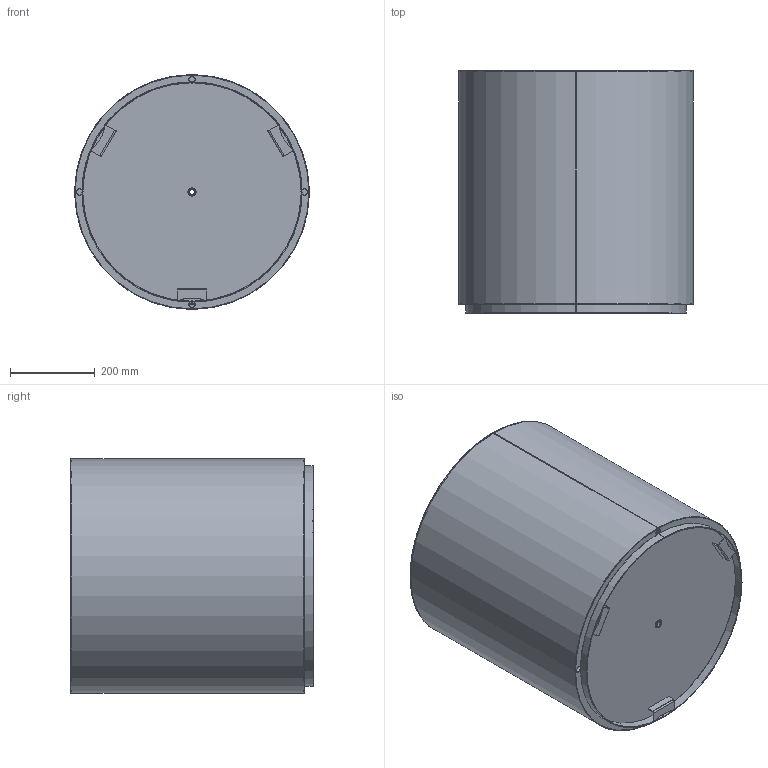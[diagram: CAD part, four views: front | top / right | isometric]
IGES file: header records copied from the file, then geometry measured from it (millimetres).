
Start section: SolidWorks IGES file using analytic representation for surfaces
Global section: file name: C:\VaultDeCastelli\Progetti\DC\PESO LEGGERO PRODOTTI\Ale\DeCastelli-3D-Cohiba large 57.igs; native system: SolidWorks 2022; preprocessor: SolidWorks 2022; author: AlessandroP; date: 240802.102643; units: millimetre
Bounding box: 552 x 570 x 552 mm (x, y, z)
Surface area: 2801618.8 mm2 (no closed solid volume)
Topology: 0 solids, 0 shells, 128 faces, 1936 edges, 1936 vertices
Faces by surface type: bspline 81, revolution 47
